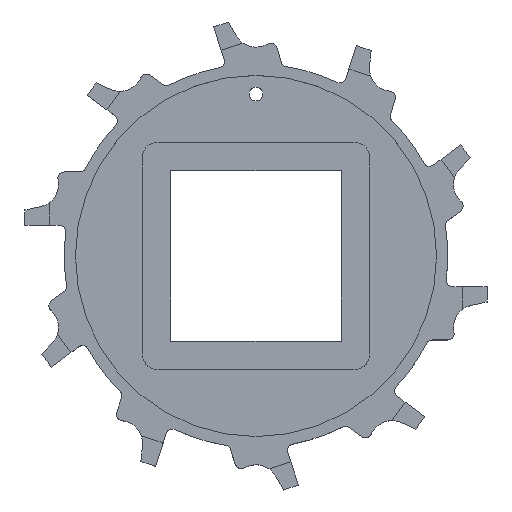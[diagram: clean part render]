
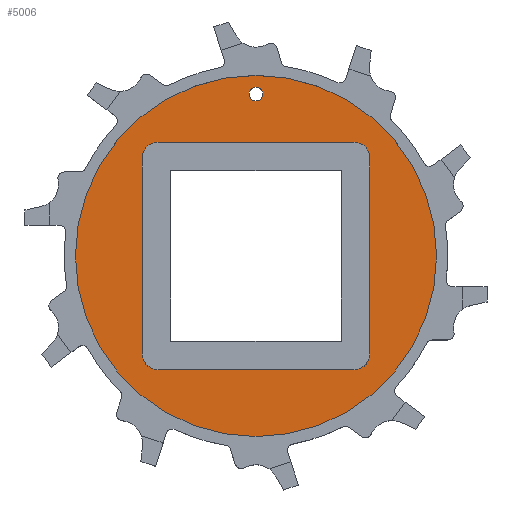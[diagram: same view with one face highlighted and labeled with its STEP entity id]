
A CAD part, top view. The second image highlights one B-rep face of the part: STEP entity #5006.
In plain terms, the highlighted planar face has unit normal (0, 0, 1).
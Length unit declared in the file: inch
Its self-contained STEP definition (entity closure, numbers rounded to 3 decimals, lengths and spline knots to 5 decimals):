
#1710=CARTESIAN_POINT('',(0.,0.,0.092));
#1711=DIRECTION('',(0.,0.,1.));
#1712=DIRECTION('',(1.,0.,0.));
#1713=AXIS2_PLACEMENT_3D('',#1710,#1711,#1712);
#1754=CARTESIAN_POINT('',(0.,0.,0.092));
#1755=DIRECTION('',(0.,0.,1.));
#1756=DIRECTION('',(-1.,0.,0.));
#1757=AXIS2_PLACEMENT_3D('',#1754,#1755,#1756);
#1763=DIRECTION('',(0.,-1.,0.));
#1764=VECTOR('',#1763,2.71);
#1765=CARTESIAN_POINT('',(-1.575,1.355,0.092));
#1766=LINE('',#1765,#1764);
#1767=DIRECTION('',(1.,0.,0.));
#1768=VECTOR('',#1767,2.71);
#1769=CARTESIAN_POINT('',(-1.355,-1.575,0.092));
#1770=LINE('',#1769,#1768);
#1771=DIRECTION('',(0.,1.,0.));
#1772=VECTOR('',#1771,2.71);
#1773=CARTESIAN_POINT('',(1.575,-1.355,0.092));
#1774=LINE('',#1773,#1772);
#1775=DIRECTION('',(-1.,0.,0.));
#1776=VECTOR('',#1775,2.71);
#1777=CARTESIAN_POINT('',(1.355,1.575,0.092));
#1778=LINE('',#1777,#1776);
#1779=CARTESIAN_POINT('',(0.,2.24,0.092));
#1780=DIRECTION('',(0.,0.,-1.));
#1781=DIRECTION('',(-1.,0.,0.));
#1782=AXIS2_PLACEMENT_3D('',#1779,#1780,#1781);
#1784=CARTESIAN_POINT('',(0.,2.24,0.092));
#1785=DIRECTION('',(0.,0.,-1.));
#1786=DIRECTION('',(1.,0.,0.));
#1787=AXIS2_PLACEMENT_3D('',#1784,#1785,#1786);
#1805=CARTESIAN_POINT('',(-1.355,1.355,0.092));
#1806=DIRECTION('',(0.,0.,-1.));
#1807=DIRECTION('',(-1.,0.,0.));
#1808=AXIS2_PLACEMENT_3D('',#1805,#1806,#1807);
#1826=CARTESIAN_POINT('',(1.355,1.355,0.092));
#1827=DIRECTION('',(0.,0.,-1.));
#1828=DIRECTION('',(0.,1.,0.));
#1829=AXIS2_PLACEMENT_3D('',#1826,#1827,#1828);
#1930=CARTESIAN_POINT('',(-1.355,-1.355,0.092));
#1931=DIRECTION('',(0.,0.,-1.));
#1932=DIRECTION('',(0.,-1.,0.));
#1933=AXIS2_PLACEMENT_3D('',#1930,#1931,#1932);
#1987=CARTESIAN_POINT('',(1.355,-1.355,0.092));
#1988=DIRECTION('',(0.,0.,-1.));
#1989=DIRECTION('',(1.,0.,0.));
#1990=AXIS2_PLACEMENT_3D('',#1987,#1988,#1989);
#2461=CARTESIAN_POINT('',(-0.09375,2.24,0.092));
#2463=VERTEX_POINT('',#2461);
#2465=CARTESIAN_POINT('',(0.09375,2.24,0.092));
#2467=VERTEX_POINT('',#2465);
#2561=CARTESIAN_POINT('',(2.5,0.,0.092));
#2562=CARTESIAN_POINT('',(-2.5,0.,0.092));
#2563=VERTEX_POINT('',#2561);
#2564=VERTEX_POINT('',#2562);
#2566=CARTESIAN_POINT('',(-1.355,1.575,0.092));
#2568=VERTEX_POINT('',#2566);
#2571=CARTESIAN_POINT('',(-1.575,1.355,0.092));
#2572=VERTEX_POINT('',#2571);
#2582=CARTESIAN_POINT('',(-1.575,-1.355,0.092));
#2584=VERTEX_POINT('',#2582);
#2587=CARTESIAN_POINT('',(-1.355,-1.575,0.092));
#2588=VERTEX_POINT('',#2587);
#2606=CARTESIAN_POINT('',(1.355,-1.575,0.092));
#2608=VERTEX_POINT('',#2606);
#2611=CARTESIAN_POINT('',(1.575,-1.355,0.092));
#2612=VERTEX_POINT('',#2611);
#2614=CARTESIAN_POINT('',(1.575,1.355,0.092));
#2616=VERTEX_POINT('',#2614);
#2619=CARTESIAN_POINT('',(1.355,1.575,0.092));
#2620=VERTEX_POINT('',#2619);
#4973=CARTESIAN_POINT('',(0.,0.,0.092));
#4974=DIRECTION('',(0.,0.,1.));
#4975=DIRECTION('',(1.,0.,0.));
#4976=AXIS2_PLACEMENT_3D('',#4973,#4974,#4975);
#4977=PLANE('',#4976);
#4978=ORIENTED_EDGE('',*,*,#4903,.F.);
#4979=ORIENTED_EDGE('',*,*,#4965,.F.);
#4980=EDGE_LOOP('',(#4978,#4979));
#4981=FACE_OUTER_BOUND('',#4980,.F.);
#4983=ORIENTED_EDGE('',*,*,#4982,.T.);
#4985=ORIENTED_EDGE('',*,*,#4984,.F.);
#4987=ORIENTED_EDGE('',*,*,#4986,.T.);
#4989=ORIENTED_EDGE('',*,*,#4988,.F.);
#4991=ORIENTED_EDGE('',*,*,#4990,.T.);
#4993=ORIENTED_EDGE('',*,*,#4992,.F.);
#4995=ORIENTED_EDGE('',*,*,#4994,.T.);
#4997=ORIENTED_EDGE('',*,*,#4996,.F.);
#4998=EDGE_LOOP('',(#4983,#4985,#4987,#4989,#4991,#4993,#4995,#4997));
#4999=FACE_BOUND('',#4998,.F.);
#5001=ORIENTED_EDGE('',*,*,#5000,.F.);
#5003=ORIENTED_EDGE('',*,*,#5002,.F.);
#5004=EDGE_LOOP('',(#5001,#5003));
#5005=FACE_BOUND('',#5004,.F.);
#5006=ADVANCED_FACE('',(#4981,#4999,#5005),#4977,.T.);
#1714=CIRCLE('',#1713,2.5);
#1758=CIRCLE('',#1757,2.5);
#1783=CIRCLE('',#1782,0.09375);
#1788=CIRCLE('',#1787,0.09375);
#1809=CIRCLE('',#1808,0.22);
#1830=CIRCLE('',#1829,0.22);
#1934=CIRCLE('',#1933,0.22);
#1991=CIRCLE('',#1990,0.22);
#4903=EDGE_CURVE('',#2563,#2564,#1714,.T.);
#4965=EDGE_CURVE('',#2564,#2563,#1758,.T.);
#4982=EDGE_CURVE('',#2572,#2584,#1766,.T.);
#4984=EDGE_CURVE('',#2588,#2584,#1934,.T.);
#4986=EDGE_CURVE('',#2588,#2608,#1770,.T.);
#4988=EDGE_CURVE('',#2612,#2608,#1991,.T.);
#4990=EDGE_CURVE('',#2612,#2616,#1774,.T.);
#4992=EDGE_CURVE('',#2620,#2616,#1830,.T.);
#4994=EDGE_CURVE('',#2620,#2568,#1778,.T.);
#4996=EDGE_CURVE('',#2572,#2568,#1809,.T.);
#5000=EDGE_CURVE('',#2463,#2467,#1783,.T.);
#5002=EDGE_CURVE('',#2467,#2463,#1788,.T.);
